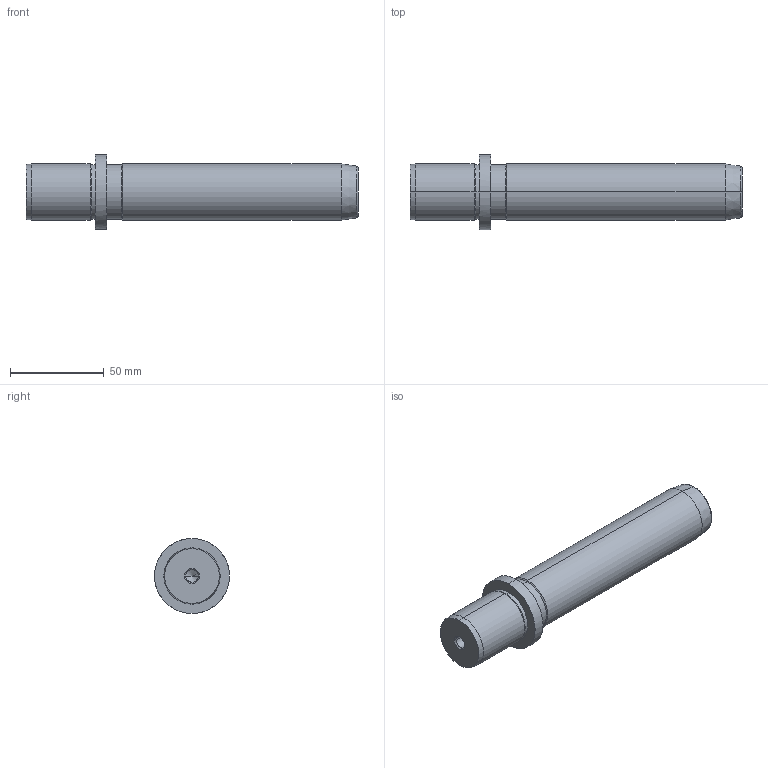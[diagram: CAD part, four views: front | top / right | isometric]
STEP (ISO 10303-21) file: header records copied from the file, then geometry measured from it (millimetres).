
FILE_DESCRIPTION(('CATIA V5 STEP Exchange'),'2;1');
FILE_NAME('C:\Users\Utente\Desktop\IO LAVORO\3D X SITO CF\X SITO\718\718-30x140.stp','2021-01-02T13:16:52+00:00',('none'),('none'),'CATIA Version 5 Release 20 GA (IN-10)','CATIA V5 STEP AP203','none');
FILE_SCHEMA(('CONFIG_CONTROL_DESIGN'));
Length unit declared in the file: millimetre
Products named in the file (1): 718-30x140
Bounding box: 177 x 40 x 40 mm (x, y, z)
Volume: 125603.6 mm3; surface area: 20262.8 mm2
Topology: 1 solids, 1 shells, 36 faces, 100 edges, 66 vertices
Faces by surface type: cone 16, cylinder 14, plane 4, torus 2
Entity records: 1291 total; most frequent: CARTESIAN_POINT 362, ORIENTED_EDGE 192, DIRECTION 157, EDGE_CURVE 96, AXIS2_PLACEMENT_3D 92, VERTEX_POINT 66, CIRCLE 55, EDGE_LOOP 40
